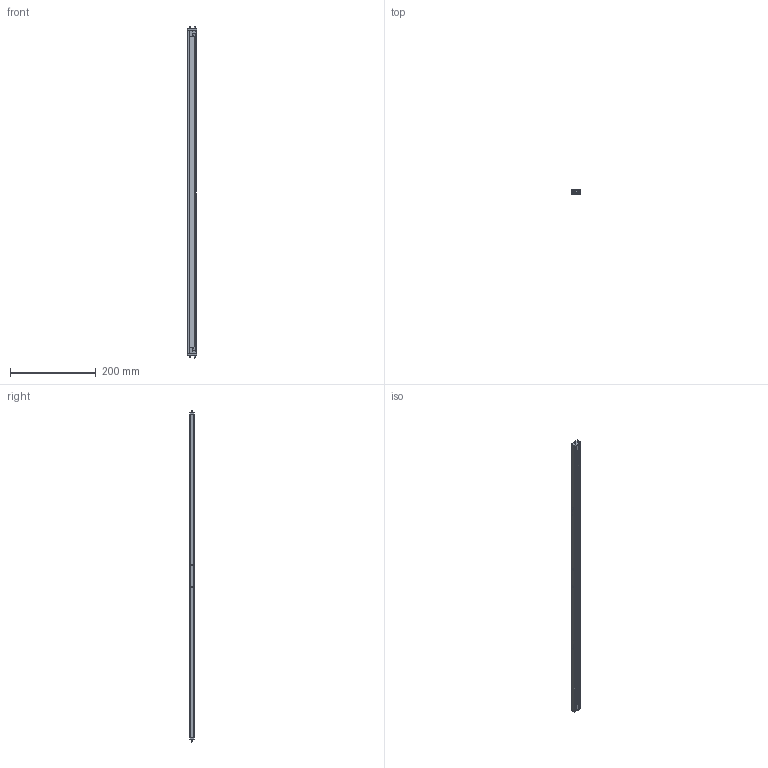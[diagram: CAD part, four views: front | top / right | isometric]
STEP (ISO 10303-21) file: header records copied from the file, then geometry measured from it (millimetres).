
FILE_DESCRIPTION (( 'STEP AP214' ), '1' );
FILE_NAME ('2000117 Kiton EDC mit 2 Sensoren 761 mm.STEP', '2022-11-03T11:13:01', ( '' ), ( '' ), 'SwSTEP 2.0', 'SolidWorks 2021', '' );
FILE_SCHEMA (( 'AUTOMOTIVE_DESIGN' ));
Length unit declared in the file: millimetre
Products named in the file (11): VITE TS TORX 2x6; SUPPORTO TESTATA_SUPPORTO TESTATA DX; STRIP REEL 180 LED METRO 5.25mm; SUPPORTO TESTATA_SUPPORTO TESTATA SX; PROFILO LAMPADA_L.500 IR INTERNI; TESTATA_TESTATA DX; TESTATA_TESTATA SX; 2000117 Kiton EDC mit 2 Sensoren 761 mm; SENSORE PROG. PROXIMITY; sheet metal screws_din_Tapping screw DIN 7049-ST2.2x9.5-C-H-C; SCHERMO KITON_L.470
Assembly tree (21 placements, depth 2):
  2000117 Kiton EDC mit 2 Sensoren 761 mm
    PROFILO LAMPADA_L.500 IR INTERNI
    SCHERMO KITON_L.470
    TESTATA_TESTATA DX
    TESTATA_TESTATA SX
    SUPPORTO TESTATA_SUPPORTO TESTATA DX
    SUPPORTO TESTATA_SUPPORTO TESTATA SX
    SENSORE PROG. PROXIMITY  x2
    STRIP REEL 180 LED METRO 5.25mm  x7
    sheet metal screws_din_Tapping screw DIN 7049-ST2.2x9.5-C-H-C  x4
    VITE TS TORX 2x6  x2
Bounding box: 21.13 x 11.42 x 774.26 mm (x, y, z)
Volume: 85059.1 mm3; surface area: 120586.7 mm2
Topology: 21 solids, 21 shells, 1722 faces, 4704 edges, 3114 vertices
Faces by surface type: plane 1204, cylinder 343, bspline 133, cone 22, sphere 12, torus 8
Entity records: 39890 total; most frequent: CARTESIAN_POINT 13847, ORIENTED_EDGE 5234, DIRECTION 4227, EDGE_CURVE 2617, VECTOR 1953, LINE 1953, VERTEX_POINT 1738, AXIS2_PLACEMENT_3D 1137
